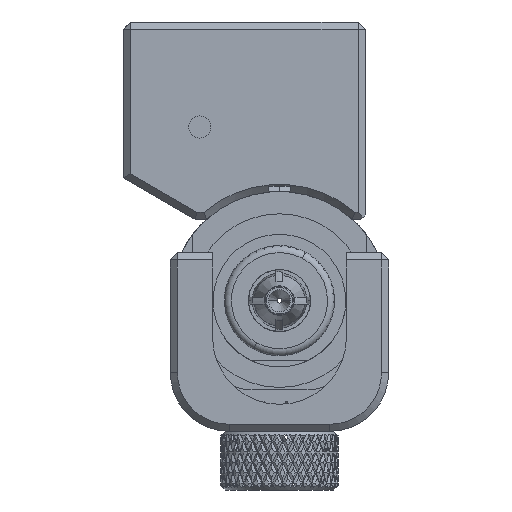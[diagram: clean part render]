
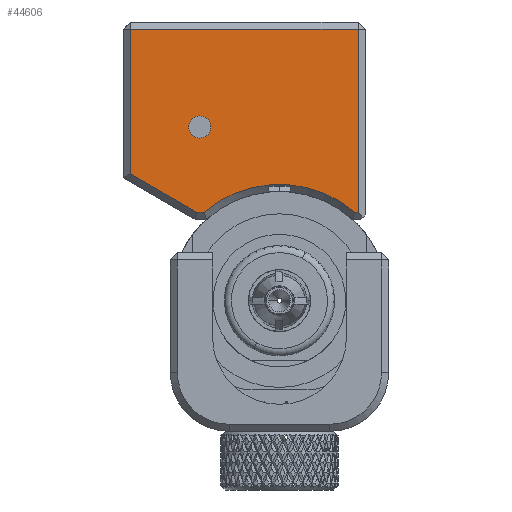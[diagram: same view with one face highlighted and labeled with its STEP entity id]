
A CAD part, front view. The second image highlights one B-rep face of the part: STEP entity #44606.
In plain terms, the highlighted planar face has unit normal (0, -1, 0).
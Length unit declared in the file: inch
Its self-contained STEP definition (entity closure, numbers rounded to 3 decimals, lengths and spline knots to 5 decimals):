
#578 = ORIENTED_EDGE ( 'NONE', *, *, #15940, .T. ) ;
#596 = DIRECTION ( 'NONE',  ( 0., 0., 1. ) ) ;
#743 = ORIENTED_EDGE ( 'NONE', *, *, #2555, .T. ) ;
#2555 = EDGE_CURVE ( 'NONE', #5012, #42883, #24848, .T. ) ;
#2643 = VERTEX_POINT ( 'NONE', #69082 ) ;
#2656 = CARTESIAN_POINT ( 'NONE',  ( -0.635, -0.059, 1.157 ) ) ;
#4371 = CARTESIAN_POINT ( 'NONE',  ( 0., -0.059, 1.157 ) ) ;
#4749 = DIRECTION ( 'NONE',  ( 0., 0., 1. ) ) ;
#5012 = VERTEX_POINT ( 'NONE', #67841 ) ;
#6409 = PLANE ( 'NONE',  #12774 ) ;
#6598 = LINE ( 'NONE', #17440, #51617 ) ;
#7552 = ORIENTED_EDGE ( 'NONE', *, *, #29789, .T. ) ;
#8988 = EDGE_LOOP ( 'NONE', ( #55257, #7552 ) ) ;
#11502 = ORIENTED_EDGE ( 'NONE', *, *, #32908, .T. ) ;
#12774 = AXIS2_PLACEMENT_3D ( 'NONE', #66665, #32356, #38326 ) ;
#13313 = VERTEX_POINT ( 'NONE', #60005 ) ;
#13702 = AXIS2_PLACEMENT_3D ( 'NONE', #51310, #24625, #67465 ) ;
#13846 = VECTOR ( 'NONE', #57082, 39.37008 ) ;
#14445 = DIRECTION ( 'NONE',  ( 0., 0., -1. ) ) ;
#14815 = EDGE_CURVE ( 'NONE', #18270, #60535, #34745, .T. ) ;
#15940 = EDGE_CURVE ( 'NONE', #42883, #61840, #6598, .T. ) ;
#16545 = FACE_BOUND ( 'NONE', #8988, .T. ) ;
#17440 = CARTESIAN_POINT ( 'NONE',  ( 0.335, -0.059, 0. ) ) ;
#18270 = VERTEX_POINT ( 'NONE', #57478 ) ;
#18923 = DIRECTION ( 'NONE',  ( 0., 0., 1. ) ) ;
#22769 = ORIENTED_EDGE ( 'NONE', *, *, #30438, .T. ) ;
#24513 = CARTESIAN_POINT ( 'NONE',  ( 0., -0.059, 0.37673 ) ) ;
#24527 = DIRECTION ( 'NONE',  ( 1., 0., 0. ) ) ;
#24625 = DIRECTION ( 'NONE',  ( 0., 1., 0. ) ) ;
#24848 = LINE ( 'NONE', #24513, #54251 ) ;
#29762 = LINE ( 'NONE', #35042, #56428 ) ;
#29789 = EDGE_CURVE ( 'NONE', #60535, #18270, #67502, .T. ) ;
#30438 = EDGE_CURVE ( 'NONE', #13313, #5012, #40610, .T. ) ;
#31396 = LINE ( 'NONE', #52496, #13846 ) ;
#31529 = VERTEX_POINT ( 'NONE', #59389 ) ;
#31585 = AXIS2_PLACEMENT_3D ( 'NONE', #56745, #46215, #4749 ) ;
#32356 = DIRECTION ( 'NONE',  ( 0., 1., 0. ) ) ;
#32908 = EDGE_CURVE ( 'NONE', #31529, #13313, #29762, .T. ) ;
#33372 = EDGE_CURVE ( 'NONE', #61840, #55860, #55381, .T. ) ;
#33373 = EDGE_CURVE ( 'NONE', #2643, #31529, #31396, .T. ) ;
#34388 = CARTESIAN_POINT ( 'NONE',  ( -0.34, -0.059, 0.74 ) ) ;
#34702 = FACE_OUTER_BOUND ( 'NONE', #55305, .T. ) ;
#34745 = CIRCLE ( 'NONE', #51576, 0.04724 ) ;
#35042 = CARTESIAN_POINT ( 'NONE',  ( 0., -0.059, 0.37673 ) ) ;
#38326 = DIRECTION ( 'NONE',  ( 0., 0., 1. ) ) ;
#39968 = ORIENTED_EDGE ( 'NONE', *, *, #33373, .T. ) ;
#40610 = CIRCLE ( 'NONE', #13702, 0.495 ) ;
#42883 = VERTEX_POINT ( 'NONE', #65683 ) ;
#44606 = ADVANCED_FACE ( 'NONE', ( #34702, #16545 ), #6409, .F. ) ;
#45236 = ORIENTED_EDGE ( 'NONE', *, *, #58290, .T. ) ;
#45944 = DIRECTION ( 'NONE',  ( 1., 0., 0. ) ) ;
#46215 = DIRECTION ( 'NONE',  ( 0., 1., 0. ) ) ;
#51310 = CARTESIAN_POINT ( 'NONE',  ( 0., -0.059, 0. ) ) ;
#51576 = AXIS2_PLACEMENT_3D ( 'NONE', #34388, #67042, #18923 ) ;
#51617 = VECTOR ( 'NONE', #596, 39.37008 ) ;
#51682 = LINE ( 'NONE', #56289, #62728 ) ;
#52496 = CARTESIAN_POINT ( 'NONE',  ( 0.07518, -0.059, 0.13021 ) ) ;
#54251 = VECTOR ( 'NONE', #45944, 39.37008 ) ;
#55257 = ORIENTED_EDGE ( 'NONE', *, *, #14815, .T. ) ;
#55305 = EDGE_LOOP ( 'NONE', ( #45236, #39968, #11502, #22769, #743, #578, #66978 ) ) ;
#55381 = LINE ( 'NONE', #4371, #63200 ) ;
#55860 = VERTEX_POINT ( 'NONE', #2656 ) ;
#56289 = CARTESIAN_POINT ( 'NONE',  ( -0.635, -0.059, 0. ) ) ;
#56428 = VECTOR ( 'NONE', #24527, 39.37008 ) ;
#56745 = CARTESIAN_POINT ( 'NONE',  ( -0.34, -0.059, 0.74 ) ) ;
#57082 = DIRECTION ( 'NONE',  ( 0.866, 0., -0.5 ) ) ;
#57457 = CARTESIAN_POINT ( 'NONE',  ( -0.34, -0.059, 0.69276 ) ) ;
#57478 = CARTESIAN_POINT ( 'NONE',  ( -0.34, -0.059, 0.78724 ) ) ;
#58290 = EDGE_CURVE ( 'NONE', #55860, #2643, #51682, .T. ) ;
#59389 = CARTESIAN_POINT ( 'NONE',  ( -0.35181, -0.059, 0.37673 ) ) ;
#60005 = CARTESIAN_POINT ( 'NONE',  ( -0.32109, -0.059, 0.37673 ) ) ;
#60535 = VERTEX_POINT ( 'NONE', #57457 ) ;
#61840 = VERTEX_POINT ( 'NONE', #67615 ) ;
#62011 = DIRECTION ( 'NONE',  ( -1., 0., 0. ) ) ;
#62728 = VECTOR ( 'NONE', #14445, 39.37008 ) ;
#63200 = VECTOR ( 'NONE', #62011, 39.37008 ) ;
#65683 = CARTESIAN_POINT ( 'NONE',  ( 0.335, -0.059, 0.37673 ) ) ;
#66665 = CARTESIAN_POINT ( 'NONE',  ( 0., -0.059, 0. ) ) ;
#66978 = ORIENTED_EDGE ( 'NONE', *, *, #33372, .T. ) ;
#67042 = DIRECTION ( 'NONE',  ( 0., 1., 0. ) ) ;
#67465 = DIRECTION ( 'NONE',  ( 0., 0., 1. ) ) ;
#67502 = CIRCLE ( 'NONE', #31585, 0.04724 ) ;
#67615 = CARTESIAN_POINT ( 'NONE',  ( 0.335, -0.059, 1.157 ) ) ;
#67841 = CARTESIAN_POINT ( 'NONE',  ( 0.32109, -0.059, 0.37673 ) ) ;
#69082 = CARTESIAN_POINT ( 'NONE',  ( -0.635, -0.059, 0.54023 ) ) ;
